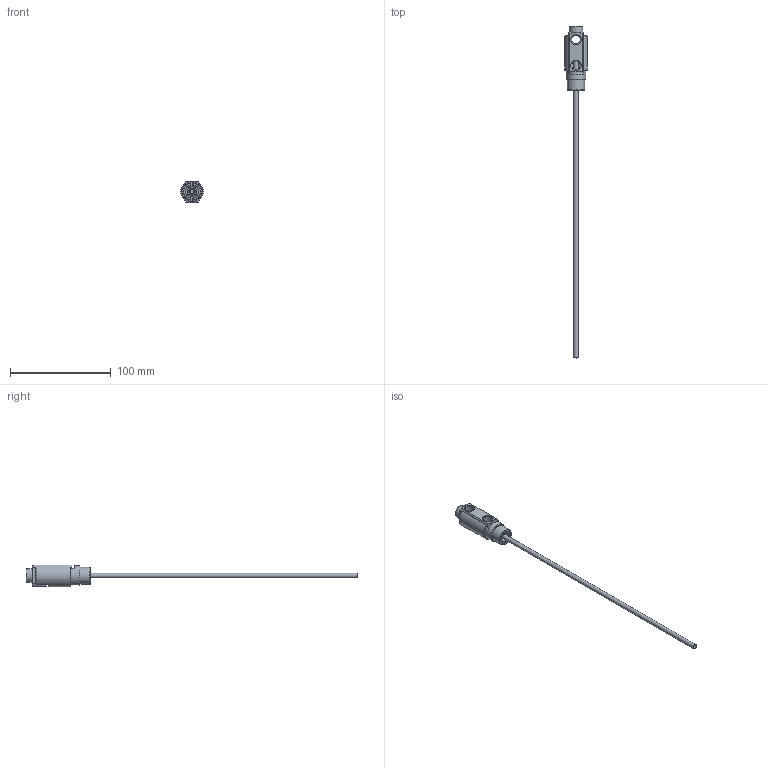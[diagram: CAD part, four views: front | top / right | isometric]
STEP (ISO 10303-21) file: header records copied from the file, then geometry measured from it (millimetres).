
FILE_DESCRIPTION(/* description */ (''),/* implementation_level */ '2;1');
FILE_NAME(/* name */ 'C:/Users/drich/Desktop/SC181N-RL v1.step',/* time_stamp */ '2020-01-15T19:44:58-06:00',/* author */ (''),/* organization */ (''),/* preprocessor_version */ 'ST-DEVELOPER v18',/* originating_system */ 'Autodesk Translation Framework v8.12.0.6',/* authorisation */ '');
FILE_SCHEMA (('AUTOMOTIVE_DESIGN { 1 0 10303 214 3 1 1 }'));
Length unit declared in the file: inch
Products named in the file (6): SC181N-RL; SC181H-RL HEAD; black seal; SC181H Sleeve; PT16-187-12; BF-18
Assembly tree (5 placements, depth 3):
  SC181N-RL
    SC181H-RL HEAD
      black seal
      SC181H Sleeve
    PT16-187-12
    BF-18
Bounding box: 22.2 x 329.18 x 21.41 mm (x, y, z)
Volume: 16459.9 mm3; surface area: 20258.9 mm2
Topology: 5 solids, 5 shells, 116 faces, 322 edges, 221 vertices
Faces by surface type: plane 60, cylinder 26, cone 20, torus 10
Full cylindrical faces by diameter (mm): 3.962 x1, 4.242 x1, 4.724 x1, 5.969 x1, 6.697 x1, 6.731 x2, 6.858 x1, 7.616 x1, 8.707 x4, 9.5 x1, 9.621 x1, 9.652 x1, 12.7 x1, 12.954 x1, 13.462 x1, 15.165 x1, 17.018 x1, 19.558 x1
Entity records: 4136 total; most frequent: CARTESIAN_POINT 917, DIRECTION 679, ORIENTED_EDGE 642, EDGE_CURVE 321, AXIS2_PLACEMENT_3D 277, VERTEX_POINT 221, CIRCLE 144, EDGE_LOOP 136
